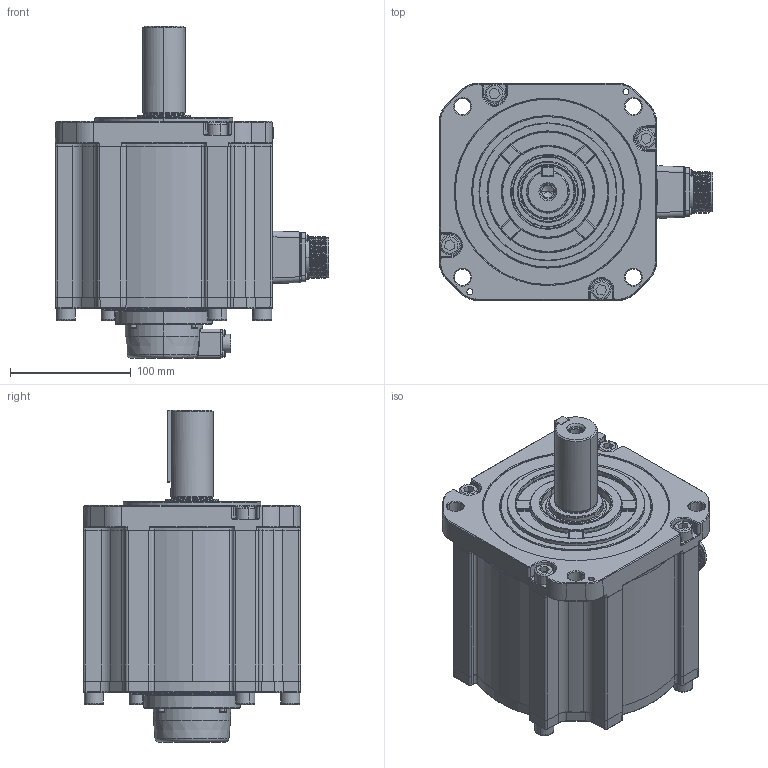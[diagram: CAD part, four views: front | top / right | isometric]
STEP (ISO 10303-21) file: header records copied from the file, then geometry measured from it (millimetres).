
FILE_DESCRIPTION (( 'STEP AP214' ), '1' );
FILE_NAME ('RSA1-M-180-4.4kw.STEP', '2024-08-12T09:25:27', ( '' ), ( '' ), 'SwSTEP 2.0', 'SolidWorks 2020', '' );
FILE_SCHEMA (( 'AUTOMOTIVE_DESIGN' ));
Length unit declared in the file: millimetre
Products named in the file (15): 4140000005_电机内部编码器线_7x26AWG(0.1m-CMV1-10芯螺纹插座_GACJ3045); 180-翋粣-35粣噤; 180-瑤脣釱; 坋趼羞攫芛蹟隊_M3x30; 180-梓袧雄薯脣釱; ﾊｮﾗﾖｲﾛﾅﾌﾍｷﾗﾔｼｷﾂﾝｶ､_M3x8; RSA1-M-180-4.4kw; 180-M-4.4kw-儂褲; 130梓袧綴裔; 内六角圆柱头和平垫圈组合螺钉_M3x16; 内六角圆柱头螺钉_M10x30; 蚐猾_TC45x62x9; 180-梓袧綴傷裔; 180-ヶ傷裔; す瑩_B10x8x60
Assembly tree (30 placements, depth 2):
  RSA1-M-180-4.4kw
    180-M-4.4kw-儂褲
    180-ヶ傷裔
    180-瑤脣釱
    180-梓袧綴傷裔
    130梓袧綴裔
    4140000005_电机内部编码器线_7x26AWG(0.1m-CMV1-10芯螺纹插座_GACJ3045)
    180-梓袧雄薯脣釱
    180-翋粣-35粣噤
    す瑩_B10x8x60
    ﾊｮﾗﾖｲﾛﾅﾌﾍｷﾗﾔｼｷﾂﾝｶ､_M3x8  x4
    坋趼羞攫芛蹟隊_M3x30  x4
    内六角圆柱头螺钉_M10x30  x8
    内六角圆柱头和平垫圈组合螺钉_M3x16  x4
    蚐猾_TC45x62x9
Bounding box: 226.5 x 180 x 275 mm (x, y, z)
Volume: 4280081.2 mm3; surface area: 440609.2 mm2
Topology: 41 solids, 42 shells, 2836 faces, 7026 edges, 4410 vertices
Faces by surface type: plane 1063, cylinder 735, bspline 464, cone 327, torus 207, sphere 40
Entity records: 103873 total; most frequent: CARTESIAN_POINT 37654, ORIENTED_EDGE 12176, DIRECTION 10925, EDGE_CURVE 6088, AXIS2_PLACEMENT_3D 4004, VERTEX_POINT 3845, VECTOR 2917, LINE 2917
